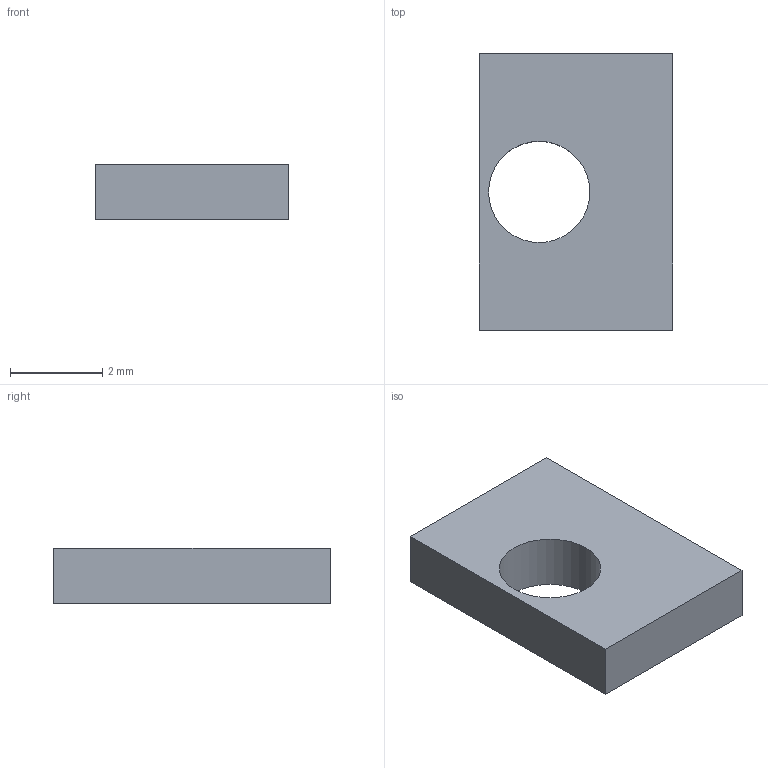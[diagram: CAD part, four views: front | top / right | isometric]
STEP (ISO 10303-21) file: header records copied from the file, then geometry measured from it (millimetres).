
FILE_DESCRIPTION(('Open CASCADE Model'),'2;1');
FILE_NAME('Open CASCADE Shape Model','2026-09-08T16:17:06',('Author'),( 'Open CASCADE'),'Open CASCADE STEP processor 7.7','Open CASCADE 7.7' ,'Unknown');
FILE_SCHEMA(('AUTOMOTIVE_DESIGN { 1 0 10303 214 1 1 1 1 }'));
Length unit declared in the file: millimetre
Products named in the file (1): Open CASCADE STEP translator 7.7 34
Bounding box: 4.2 x 6 x 1.2 mm (x, y, z)
Volume: 25.7 mm3; surface area: 75.6 mm2
Topology: 1 solids, 1 shells, 7 faces, 15 edges, 10 vertices
Faces by surface type: plane 6, cylinder 1
Full cylindrical faces by diameter (mm): 2.2 x1
Entity records: 400 total; most frequent: CARTESIAN_POINT 63, DIRECTION 63, LINE 41, VECTOR 41, ORIENTED_EDGE 30, PCURVE 30, DEFINITIONAL_REPRESENTATION 30, EDGE_CURVE 15
